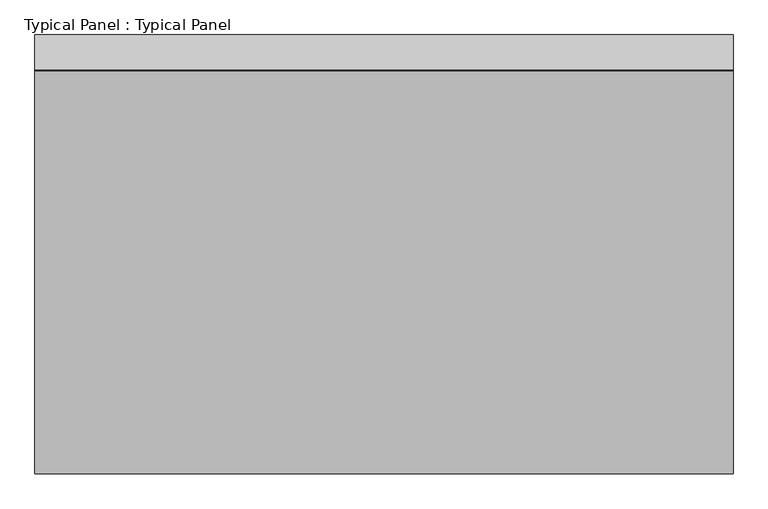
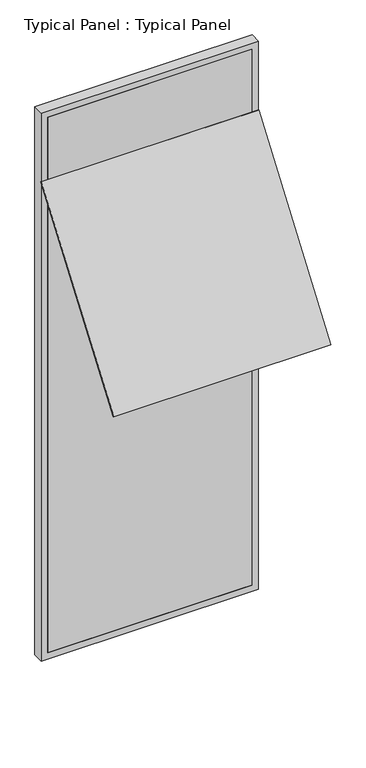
"""IFC4 building model written with IfcOpenShell, lengths in millimetres: plate geometry, Typical Panel : Typical Panel."""

from ifc_helpers import new_model, si_unit, frame, origin, place, context, project, spatial, polyline, outline, extrude, source, transform, mapped, element, save


def typical_panel_typical_panel_8b2101b3(model_context):
    return source(origin(), model_context, "Body", "SweptSolid", [
        extrude(outline(polyline([(0.0, -10.0000001), (0.0, 0.0), (1500.0, 0.0), (1500.0, -10.0000001), (0.0, -10.0000001)])), frame((750.0, -869.0443209, 2310.7450183), z_axis=(0.0, 0.5877852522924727, 0.8090169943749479), x_axis=(-1.0, 0.0, 0.0)), (0.0, 0.0, 1.0), 1470.0),
        extrude(outline(polyline([(0.0, -750.0), (0.0, 750.0), (4000.0, 750.0), (4000.0, -750.0), (0.0, -750.0)]), holes=[polyline([(45.0, 705.0), (45.0, -705.0), (3955.0, -705.0), (3955.0, 705.0), (45.0, 705.0)])]), frame((0.0, -1.5797986, 0.0), z_axis=(0.0, 1.0, 0.0), x_axis=(0.0, 0.0, 1.0)), (0.0, 0.0, 1.0), 75.0),
        extrude(outline(polyline([(705.0, -1.5797986), (-705.0, -1.5797986), (-705.0, 13.4202014), (705.0, 13.4202014), (705.0, -1.5797986)])), frame((0.0, 0.0, 45.0), z_axis=(0.0, 0.0, 1.0), x_axis=(1.0, 0.0, 0.0)), (0.0, 0.0, 1.0), 3910.0),
    ])


if __name__ == "__main__":
    model = new_model("IFC4")
    model_context = context("Model", 3, world=origin())
    ifc_project = project(units=[si_unit("LENGTHUNIT", "METRE", prefix="MILLI")], contexts=[model_context])
    site = spatial("IfcSite", under=ifc_project)
    building = spatial("IfcBuilding", under=site)
    placement = place(None, origin())
    typical_panel_typical_panel_shape = typical_panel_typical_panel_8b2101b3(model_context)
    element("IfcPlate", 1, ObjectType="Typical Panel : Typical Panel", at=placement, inside=building, context=model_context, shape_type="MappedRepresentation", body=[
        mapped(typical_panel_typical_panel_shape, transform((0.0, 0.0, 0.0), x_axis=(1.0, 0.0, 0.0), y_axis=(0.0, 1.0, 0.0), z_axis=(0.0, 0.0, 1.0))),
    ])
    save(model, "model.ifc")
